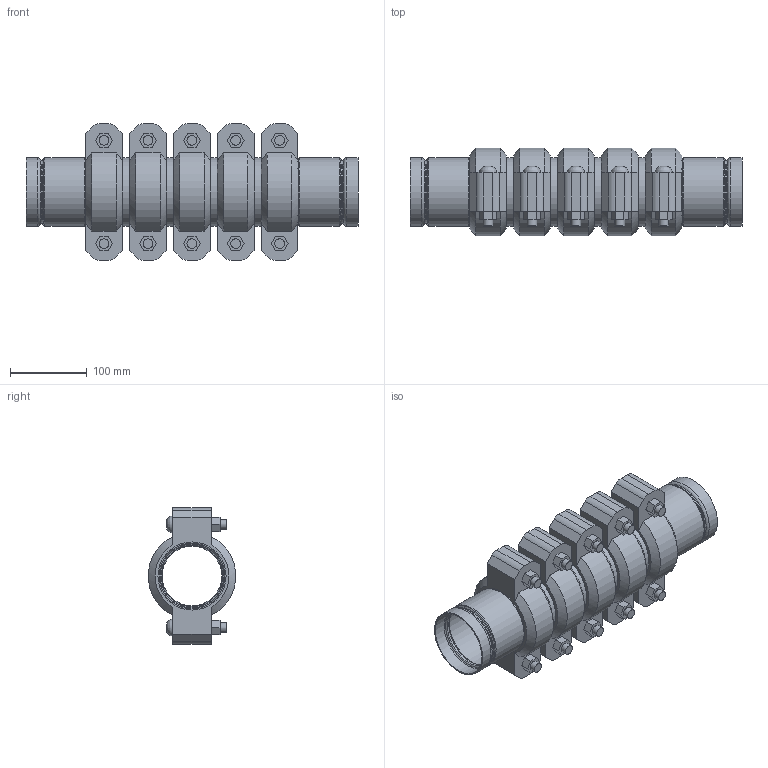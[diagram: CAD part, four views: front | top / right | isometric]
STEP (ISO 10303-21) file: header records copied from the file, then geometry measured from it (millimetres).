
FILE_DESCRIPTION(/* description */ ('VIC STRENGTHIN 100 EXPANSION JOINT 5 COUPLINGS COMPRESSED STYLE E155 (ST1)','CAx-IF Rec.Pracs.---Representation and Presentation of Product Manufacturing Information (PMI)---4.0---2014-10-13'),/* implementation_level */ '2;1');
FILE_NAME(/* name */ 'C:\Users\Vjadhav\AppData\Roaming\Autodesk\ApplicationPlugins\Victaulic.Temp\A149\Victaulic_SS-StrengThin 100_Expansion Joint_Compressed_5 Couplings_Style E155 (ST1)_3 (80).stp',/* time_stamp */ '2021-07-23T12:32:34+05:00',/* author */ ('kkamble'),/* organization */ ('Victaulic'),/* preprocessor_version */ 'ST-DEVELOPER v17.2',/* originating_system */ 'Autodesk Inventor 2019',/* authorisation */ '');
FILE_SCHEMA (('AP242_MANAGED_MODEL_BASED_3D_ENGINEERING_MIM_LF { 1 0 10303 442 1 1 4 }'));
Length unit declared in the file: inch
Products named in the file (4): E155-03.0; E494G-03.0; Nipple-03.0; 075-03.0
Assembly tree (11 placements, depth 2):
  E155-03.0
    E494G-03.0  x2
    Nipple-03.0  x4
    075-03.0  x5
Bounding box: 432.82 x 113.88 x 177.8 mm (x, y, z)
Volume: 2046015.2 mm3; surface area: 553647.2 mm2
Topology: 11 solids, 21 shells, 381 faces, 977 edges, 692 vertices
Faces by surface type: plane 206, cylinder 109, torus 32, cone 24, bspline 10
Full cylindrical faces by diameter (mm): 12.7 x20, 14.605 x10, 77.927 x4, 79.985 x2, 81.737 x2, 83.185 x2, 84.938 x10, 85.7 x6, 88.9 x23
Entity records: 3647 total; most frequent: DIRECTION 647, CARTESIAN_POINT 643, ORIENTED_EDGE 536, AXIS2_PLACEMENT_3D 275, EDGE_CURVE 268, VERTEX_POINT 193, CIRCLE 163, EDGE_LOOP 123
